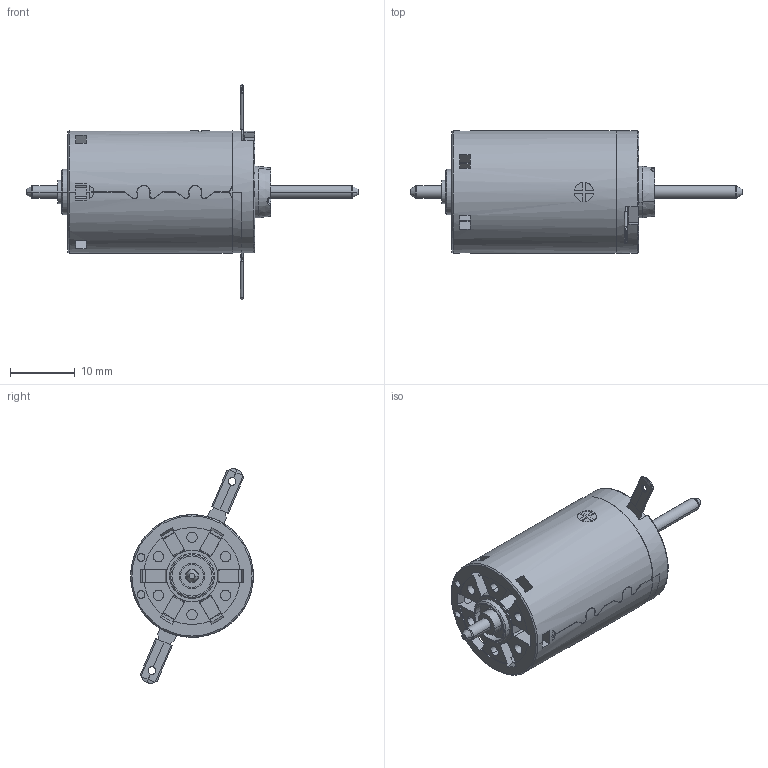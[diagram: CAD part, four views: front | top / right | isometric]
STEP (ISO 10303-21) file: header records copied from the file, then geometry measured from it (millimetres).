
FILE_DESCRIPTION((''),'2;1');
FILE_NAME('110090_AMAX19_EB_1_5W_SL_2WE','2016-10-14T',('mmagvisi'),(''),'CREO PARAMETRIC BY PTC INC, 2016050','CREO PARAMETRIC BY PTC INC, 2016050','');
FILE_SCHEMA(('CONFIG_CONTROL_DESIGN'));
Length unit declared in the file: millimetre
Products named in the file (1): 110090_AMAX19_EB_1_5W_SL_2WE
Bounding box: 51.4 x 19 x 33.42 mm (x, y, z)
Volume: 7970.5 mm3; surface area: 3763.4 mm2
Topology: 1 solids, 1 shells, 414 faces, 1077 edges, 678 vertices
Faces by surface type: plane 263, cylinder 117, cone 26, torus 8
Entity records: 18406 total; most frequent: CARTESIAN_POINT 3325, ORIENTED_EDGE 2154, DIRECTION 2089, PRESENTATION_STYLE_ASSIGNMENT 1258, STYLED_ITEM 1078, CURVE_STYLE 1077, EDGE_CURVE 1077, VECTOR 729
